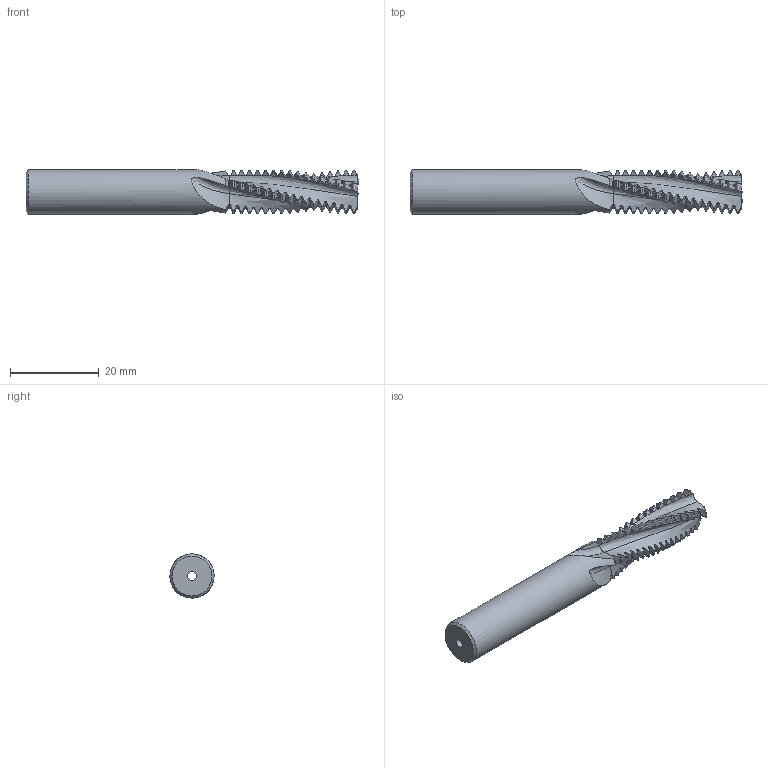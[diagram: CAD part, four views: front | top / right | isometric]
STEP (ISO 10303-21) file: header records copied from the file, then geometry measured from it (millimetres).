
FILE_DESCRIPTION(/* description */ (''),/* implementation_level */ '2;1');
FILE_NAME(/* name */ '00031823-STEP',/* time_stamp */ '2024-02-20T10:19:26+01:00',/* author */ (''),/* organization */ (''),/* preprocessor_version */ 'ST-DEVELOPER v16.5',/* originating_system */ 'HiCAD 2017 2201.0 Build 268',/* authorisation */ '');
FILE_SCHEMA (('AUTOMOTIVE_DESIGN { 1 0 10303 214 1 1 1 1 }'));
Products named in the file (2): Root; ROTATIONSTEIL_0
Assembly tree (1 placements, depth 2):
  Root
    ROTATIONSTEIL_0
Bounding box: 75 x 10 x 9.99 mm (x, y, z)
Volume: 4153 mm3; surface area: 3053.7 mm2
Topology: 1 solids, 1 shells, 485 faces, 1579 edges, 1096 vertices
Faces by surface type: torus 196, cone 133, bspline 84, cylinder 70, plane 2
Full cylindrical faces by diameter (mm): 2 x1, 10 x1
Entity records: 55882 total; most frequent: CARTESIAN_POINT 29623, PRESENTATION_STYLE_ASSIGNMENT 3145, COLOUR_RGB 3145, DRAUGHTING_PRE_DEFINED_CURVE_FONT 3144, CURVE_STYLE 3144, OVER_RIDING_STYLED_ITEM 3144, ORIENTED_EDGE 3144, DIRECTION 1616
